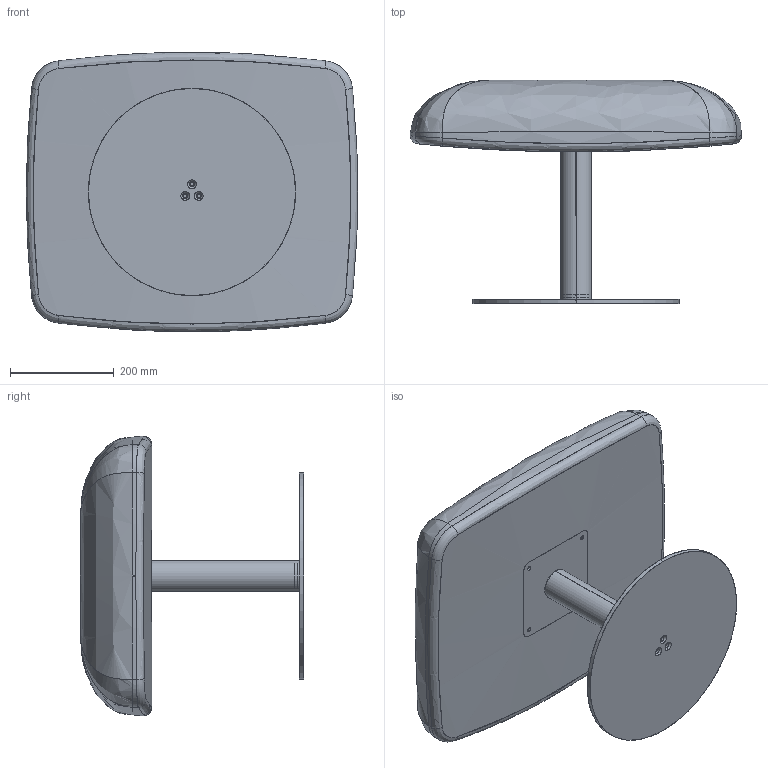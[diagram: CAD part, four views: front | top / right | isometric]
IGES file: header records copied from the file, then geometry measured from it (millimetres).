
Start section: SolidWorks IGES file using analytic representation for surfaces
Global section: file name: U:\U_TEC\UTENTI\Sara\FG52750_3D\FG52750-00-00.IGS; native system: SolidWorks 2020; preprocessor: SolidWorks 2020; author: Furioso; date: 230627.090603; units: millimetre
Bounding box: 640 x 430.68 x 540 mm (x, y, z)
Surface area: 1243994.2 mm2 (no closed solid volume)
Topology: 0 solids, 0 shells, 88 faces, 1807 edges, 1804 vertices
Faces by surface type: revolution 54, bspline 34
